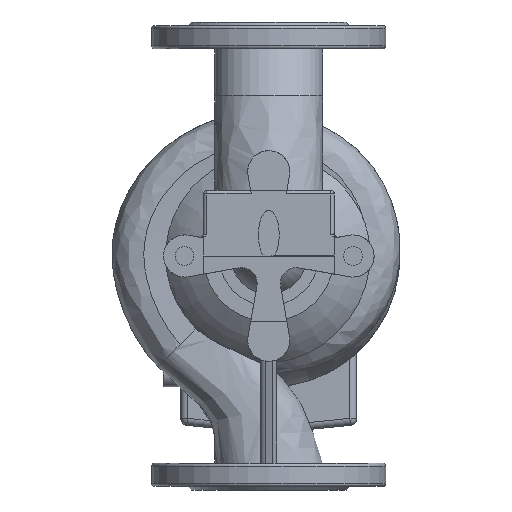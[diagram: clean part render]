
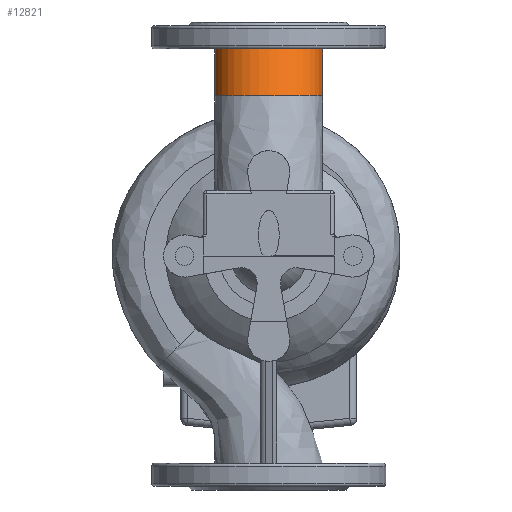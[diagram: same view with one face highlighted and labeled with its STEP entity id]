
A CAD part, front view. The second image highlights one B-rep face of the part: STEP entity #12821.
In plain terms, the highlighted free-form (B-spline) face has degree [3, 1] with [7, 2] control points.
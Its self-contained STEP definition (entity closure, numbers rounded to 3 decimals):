
#2563 = CARTESIAN_POINT ( 'NONE',  ( 46., 0., 177. ) ) ;
#2983 = FACE_OUTER_BOUND ( 'NONE', #22129, .T. ) ;
#3906 = VERTEX_POINT ( 'NONE', #26509 ) ;
#6066 = CARTESIAN_POINT ( 'NONE',  ( 0., -23.131, 136.935 ) ) ;
#6239 = VERTEX_POINT ( 'NONE', #14261 ) ;
#6928 = CARTESIAN_POINT ( 'NONE',  ( -46., -23.131, 136.935 ) ) ;
#7339 = CARTESIAN_POINT ( 'NONE',  ( -46., -115.131, 136.935 ) ) ;
#8184 = DIRECTION ( 'NONE',  ( 0., 0., -1. ) ) ;
#8825 = EDGE_CURVE ( 'NONE', #6239, #3906, #14619, .T. ) ;
#9377 = CARTESIAN_POINT ( 'NONE',  ( 46., -23.131, 136.935 ) ) ;
#11233 = EDGE_CURVE ( 'NONE', #6239, #17345, #26644, .T. ) ;
#11258 = EDGE_CURVE ( 'NONE', #3906, #27214, #27314, .T. ) ;
#11315 = CARTESIAN_POINT ( 'NONE',  ( 46., -115.131, 136.935 ) ) ;
#12156 = CARTESIAN_POINT ( 'NONE',  ( -46., 0., 177. ) ) ;
#12821 = ADVANCED_FACE ( 'NONE', ( #2983 ), #20504, .F. ) ;
#14261 = CARTESIAN_POINT ( 'NONE',  ( 46., -23.131, 136.935 ) ) ;
#14293 = ORIENTED_EDGE ( 'NONE', *, *, #8825, .F. ) ;
#14619 = CIRCLE ( 'NONE', #19635, 46. ) ;
#14688 = DIRECTION ( 'NONE',  ( -1., 0., 0. ) ) ;
#14884 = CIRCLE ( 'NONE', #16253, 46. ) ;
#15556 = CARTESIAN_POINT ( 'NONE',  ( -46., 68.869, 136.935 ) ) ;
#15976 = CARTESIAN_POINT ( 'NONE',  ( -46., -92., 177. ) ) ;
#16253 = AXIS2_PLACEMENT_3D ( 'NONE', #16814, #23441, #21174 ) ;
#16583 = ORIENTED_EDGE ( 'NONE', *, *, #11233, .T. ) ;
#16814 = CARTESIAN_POINT ( 'NONE',  ( 0., 0., 177. ) ) ;
#17345 = VERTEX_POINT ( 'NONE', #20391 ) ;
#17817 = CARTESIAN_POINT ( 'NONE',  ( 46., 92., 177. ) ) ;
#17950 = CARTESIAN_POINT ( 'NONE',  ( -46., 0., 177. ) ) ;
#18006 = CARTESIAN_POINT ( 'NONE',  ( 46., 0., 177. ) ) ;
#19351 = ORIENTED_EDGE ( 'NONE', *, *, #25006, .T. ) ;
#19635 = AXIS2_PLACEMENT_3D ( 'NONE', #6066, #8184, #14688 ) ;
#19924 = CARTESIAN_POINT ( 'NONE',  ( -46., 0., 177. ) ) ;
#20197 = CARTESIAN_POINT ( 'NONE',  ( 46., -23.131, 136.935 ) ) ;
#20391 = CARTESIAN_POINT ( 'NONE',  ( 46., 0., 177. ) ) ;
#20504 =( BOUNDED_SURFACE ( )  B_SPLINE_SURFACE ( 3, 1, ( 
 ( #6928, #19924 ),
 ( #15556, #24033 ),
 ( #22183, #17817 ),
 ( #20197, #2563 ),
 ( #11315, #26717 ),
 ( #7339, #15976 ),
 ( #24169, #17950 ) ),
 .UNSPECIFIED., .T., .F., .F. ) 
 B_SPLINE_SURFACE_WITH_KNOTS ( ( 4, 3, 4 ),
 ( 2, 2 ),
 ( 0., 0.5, 1. ),
 ( 0., 1. ),
 .UNSPECIFIED. ) 
 GEOMETRIC_REPRESENTATION_ITEM ( )  RATIONAL_B_SPLINE_SURFACE ( (
 ( 1., 1.),
 ( 0.333, 0.333),
 ( 0.333, 0.333),
 ( 1., 1.),
 ( 0.333, 0.333),
 ( 0.333, 0.333),
 ( 1., 1.) ) ) 
 REPRESENTATION_ITEM ( '' )  SURFACE ( )  );
#21174 = DIRECTION ( 'NONE',  ( -1., 0., 0. ) ) ;
#22129 = EDGE_LOOP ( 'NONE', ( #14293, #16583, #19351, #27877 ) ) ;
#22183 = CARTESIAN_POINT ( 'NONE',  ( 46., 68.869, 136.935 ) ) ;
#23441 = DIRECTION ( 'NONE',  ( 0., 0., -1. ) ) ;
#24033 = CARTESIAN_POINT ( 'NONE',  ( -46., 92., 177. ) ) ;
#24169 = CARTESIAN_POINT ( 'NONE',  ( -46., -23.131, 136.935 ) ) ;
#25006 = EDGE_CURVE ( 'NONE', #17345, #27214, #14884, .T. ) ;
#25496 = CARTESIAN_POINT ( 'NONE',  ( -46., 0., 177. ) ) ;
#25630 = CARTESIAN_POINT ( 'NONE',  ( -46., -23.131, 136.935 ) ) ;
#26509 = CARTESIAN_POINT ( 'NONE',  ( -46., -23.131, 136.935 ) ) ;
#26644 = B_SPLINE_CURVE_WITH_KNOTS ( 'NONE', 1,
 ( #9377, #18006 ),
 .UNSPECIFIED., .F., .F.,
 ( 2, 2 ),
 ( 0., 1. ),
 .UNSPECIFIED. ) ;
#26717 = CARTESIAN_POINT ( 'NONE',  ( 46., -92., 177. ) ) ;
#27214 = VERTEX_POINT ( 'NONE', #12156 ) ;
#27314 = B_SPLINE_CURVE_WITH_KNOTS ( 'NONE', 1,
 ( #25630, #25496 ),
 .UNSPECIFIED., .F., .F.,
 ( 2, 2 ),
 ( 0., 1. ),
 .UNSPECIFIED. ) ;
#27877 = ORIENTED_EDGE ( 'NONE', *, *, #11258, .F. ) ;
